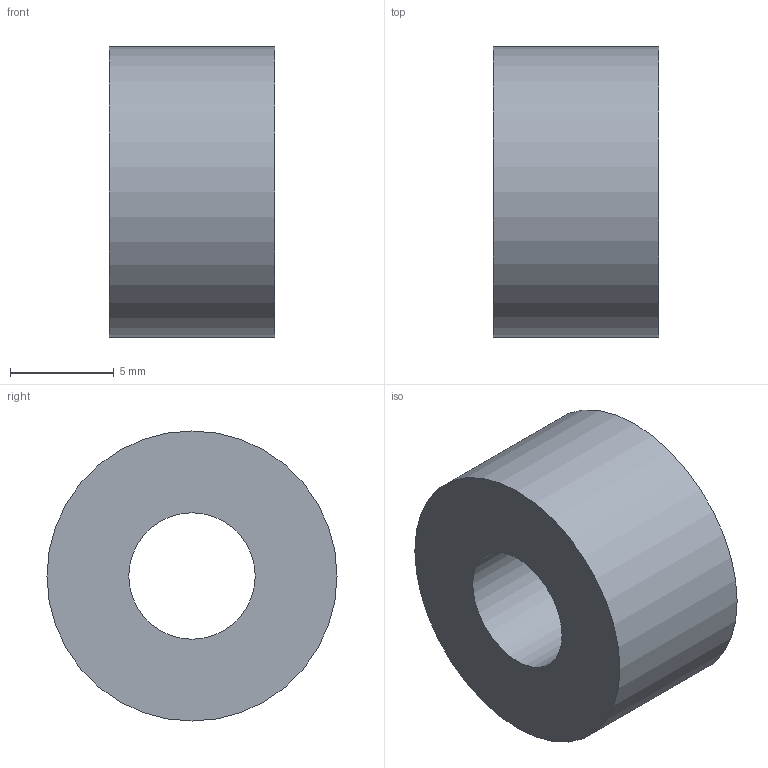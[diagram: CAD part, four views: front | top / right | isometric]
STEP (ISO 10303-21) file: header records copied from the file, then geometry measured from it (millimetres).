
FILE_DESCRIPTION(('Open CASCADE Model'),'2;1');
FILE_NAME('Open CASCADE Shape Model','2026-10-16T03:24:50',('Author'),( 'Open CASCADE'),'Open CASCADE STEP processor 7.9','Open CASCADE 7.9' ,'Unknown');
FILE_SCHEMA(('AUTOMOTIVE_DESIGN { 1 0 10303 214 1 1 1 1 }'));
Length unit declared in the file: millimetre
Products named in the file (1): Open CASCADE STEP translator 7.9 9
Bounding box: 8 x 14 x 14 mm (x, y, z)
Volume: 997.7 mm3; surface area: 754.6 mm2
Topology: 1 solids, 1 shells, 4 faces, 6 edges, 4 vertices
Faces by surface type: cylinder 2, plane 2
Full cylindrical faces by diameter (mm): 6.1 x1, 14 x1
Entity records: 192 total; most frequent: CARTESIAN_POINT 39, DIRECTION 30, ORIENTED_EDGE 12, PCURVE 12, DEFINITIONAL_REPRESENTATION 12, LINE 10, VECTOR 10, AXIS2_PLACEMENT_3D 9
